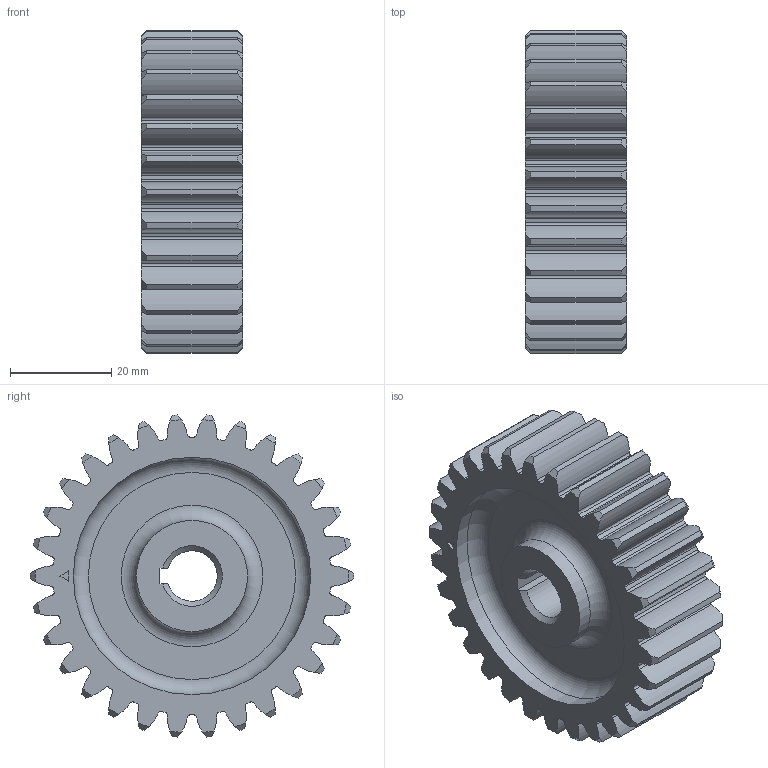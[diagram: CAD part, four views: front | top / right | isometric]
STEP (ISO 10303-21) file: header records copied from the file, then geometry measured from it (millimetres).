
FILE_DESCRIPTION(/* description */ (''),/* implementation_level */ '2;1');
FILE_NAME(/* name */ '',/* time_stamp */ '2026-05-29T16:34:08+09:00',/* author */ ('jhkim'),/* organization */ (''),/* preprocessor_version */ 'ST-DEVELOPER v20.1',/* originating_system */ 'Autodesk Inventor 2027',/* authorisation */ '');
FILE_SCHEMA (('AUTOMOTIVE_DESIGN { 1 0 10303 214 3 1 1 }'));
Length unit declared in the file: millimetre
Products named in the file (1): 스퍼 기어
Bounding box: 20 x 64 x 63.76 mm (x, y, z)
Volume: 38750.4 mm3; surface area: 15358.3 mm2
Topology: 1 solids, 1 shells, 268 faces, 780 edges, 520 vertices
Faces by surface type: cylinder 185, cone 62, plane 17, torus 4
Full cylindrical faces by diameter (mm): 22 x2, 47 x2
Entity records: 9271 total; most frequent: CARTESIAN_POINT 1937, DIRECTION 1638, ORIENTED_EDGE 1560, EDGE_CURVE 780, AXIS2_PLACEMENT_3D 713, VERTEX_POINT 520, CIRCLE 444, EDGE_LOOP 276
